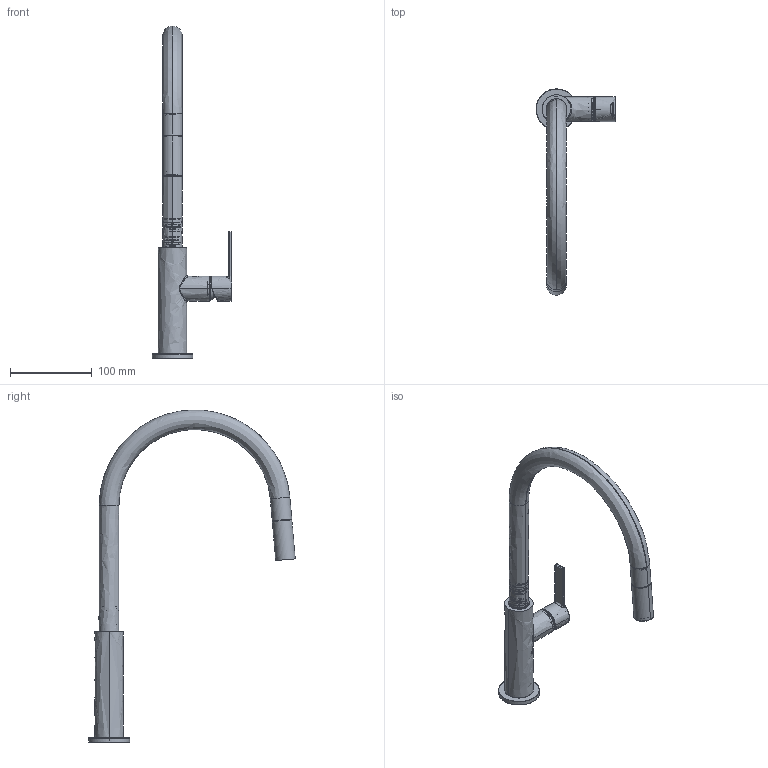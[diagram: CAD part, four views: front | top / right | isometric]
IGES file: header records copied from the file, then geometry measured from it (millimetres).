
Global section: file name: F:\_CONVERSIONE_CAD_2024_2025\PACCHETTI_2026\NUOVI_PACCHETTI_LUGLIO\PRIORITY_3\3D001_Taps_Maris-Slim_J-Pull-Down-Nozzle\3D001_Taps_Maris-Slim_J-Pull-Down-Nozzle.igs; native system: Rhinoceros ( May  6 2026 ); preprocessor: Trout Lake IGES 012 May  6 2026; date: 260803.143253; units: millimetre
Bounding box: 97.95 x 253.14 x 407.1 mm (x, y, z)
Surface area: 130652.9 mm2 (no closed solid volume)
Topology: 0 solids, 0 shells, 2120 faces, 12163 edges, 12135 vertices
Faces by surface type: bspline 2120
